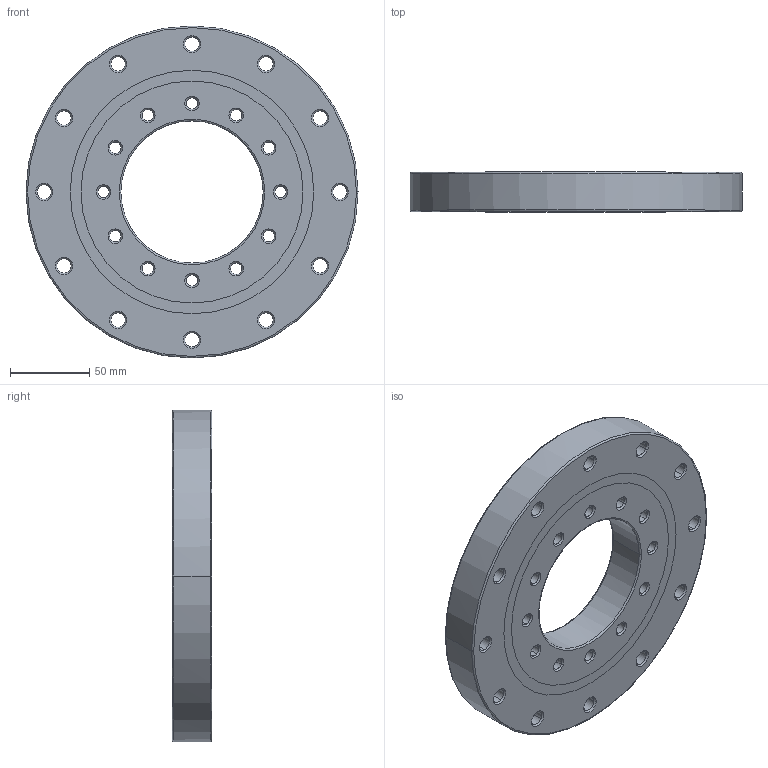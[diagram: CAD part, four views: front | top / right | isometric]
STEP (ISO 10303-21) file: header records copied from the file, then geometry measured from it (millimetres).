
FILE_DESCRIPTION(('no description'),'unknown implementation level');
FILE_NAME('CRBE09025A_57.stp',' ',('HIWIN GmbH'),('CADClick - KiM GmbH - www.kimweb.de'),'unknown preprocess','ACIS','unknown authorization');
FILE_SCHEMA(('automotive_design'));
Length unit declared in the file: millimetre
Products named in the file (40): CRBE09025A_1; CRBE09025A_2; CRBE09025A_3; CRBE09025A_4; CRBE09025A_5; CRBE09025A_6; CRBE09025A_7; CRBE09025A_8; CRBE09025A_9; CRBE09025A_10; CRBE09025A_11; CRBE09025A_12; CRBE09025A_13; CRBE09025A_14; CRBE09025A_15; CRBE09025A_16; CRBE09025A_17; CRBE09025A_18; CRBE09025A_19; CRBE09025A_20; CRBE09025A_21; CRBE09025A_22; CRBE09025A_23; CRBE09025A_24; CRBE09025A_25; CRBE09025A_26; CRBE09025A_27; CRBE09025A_28; CRBE09025A_29; CRBE09025A_30; CRBE09025A_31; CRBE09025A_32; CRBE09025A_33; CRBE09025A_34; CRBE09025A_35; CRBE09025A_36; CRBE09025A_37; CRBE09025A_38; CRBE09025A_39; CRBE09025A
Bounding box: 210 x 25 x 210 mm (x, y, z)
Volume: 594466.4 mm3; surface area: 130126.2 mm2
Topology: 4 solids, 40 shells, 336 faces, 880 edges, 600 vertices
Faces by surface type: cone 176, cylinder 112, plane 32, torus 16
Entity records: 20366 total; most frequent: DIRECTION 2200, CARTESIAN_POINT 1856, ORIENTED_EDGE 1616, STYLED_ITEM 1568, PRESENTATION_STYLE_ASSIGNMENT 1568, COLOUR_RGB 1568, AXIS2_PLACEMENT_3D 944, EDGE_CURVE 880
